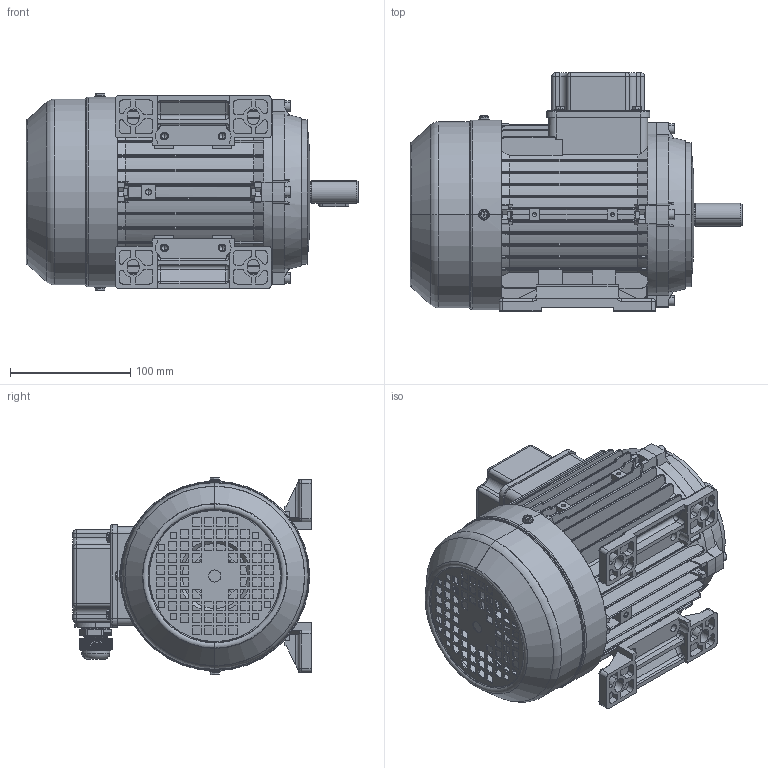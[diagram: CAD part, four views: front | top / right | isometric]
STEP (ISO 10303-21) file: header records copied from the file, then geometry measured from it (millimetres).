
FILE_DESCRIPTION (( 'STEP AP203' ), '1' );
FILE_NAME ('MSL80 assembly B3.STEP', '2017-11-26T09:40:00', ( 'user' ), ( 'china' ), 'SwSTEP 2.0', 'SolidWorks 2016', '' );
FILE_SCHEMA (( 'CONFIG_CONTROL_DESIGN' ));
Length unit declared in the file: millimetre
Products named in the file (14): M80傷裔B3_Drive; GB-T 70.1-2000 M5_20; M80-Shaft drive end; MSL80 assembly B3; M80菁褐; GB-T 5780-2000 M5_020; MSL80-90堤盄碟_MSL80-90; MSL80-儂褲; M20 cable gland; MSL80-90堤盄碟蚾饜; MS80 綴裔瑞欶郪磁; GB-T 29.2-1988 M4鞠褒坋趼湍菜_05; M80瑞欶_076; M80傷裔B3_Post
Assembly tree (26 placements, depth 3):
  MSL80 assembly B3
    MSL80-儂褲
    MS80 綴裔瑞欶郪磁
      M80傷裔B3_Post
      M80瑞欶_076
      GB-T 29.2-1988 M4鞠褒坋趼湍菜_05  x3
    MSL80-90堤盄碟蚾饜
      MSL80-90堤盄碟_MSL80-90
      GB-T 29.2-1988 M4鞠褒坋趼湍菜_05  x4
      M20 cable gland
    M80傷裔B3_Drive
    GB-T 70.1-2000 M5_20  x4
    GB-T 5780-2000 M5_020  x4
    M80-Shaft drive end
    M80菁褐  x2
Bounding box: 276 x 198 x 164.4 mm (x, y, z)
Volume: 692976.5 mm3; surface area: 529469.9 mm2
Topology: 24 solids, 24 shells, 3267 faces, 8400 edges, 5225 vertices
Faces by surface type: plane 1545, cylinder 1056, cone 233, bspline 220, torus 197, sphere 16
Entity records: 107608 total; most frequent: CARTESIAN_POINT 41236, ORIENTED_EDGE 14126, DIRECTION 12659, EDGE_CURVE 7063, VERTEX_POINT 4472, AXIS2_PLACEMENT_3D 4395, LINE 3869, VECTOR 3869
